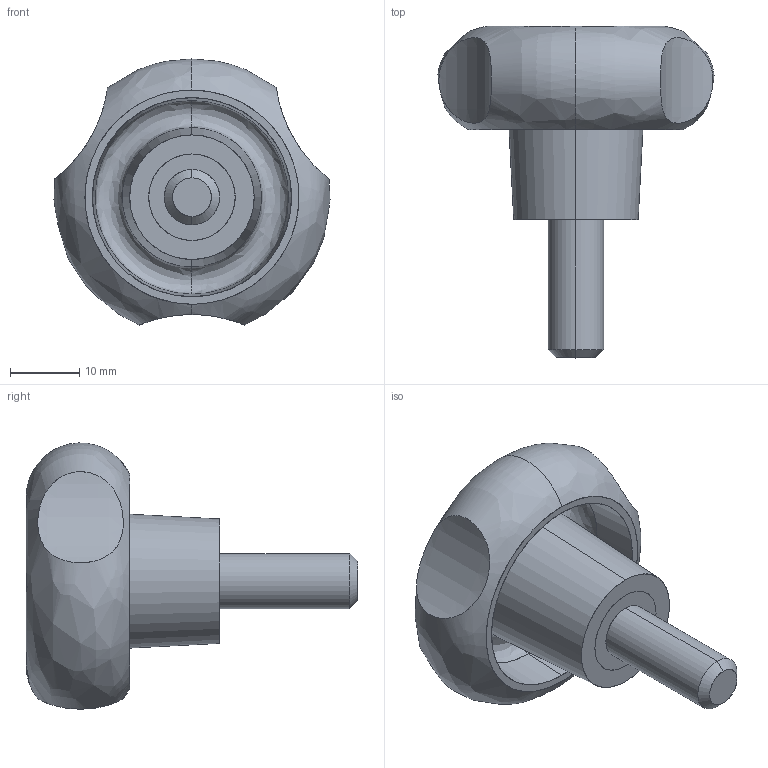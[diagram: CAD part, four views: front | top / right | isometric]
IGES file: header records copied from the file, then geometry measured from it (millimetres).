
Start section: SolidWorks IGES file using analytic representation for surfaces
Global section: file name: C:\Documents and Settings\IanO.IANOHOME\My Documents\Wix and Auto CAD Work\CAD Models\Parametric Models\Wix Models\7059\7059_IGES\Default.igs; native system: SolidWorks 2009; preprocessor: SolidWorks 2009; author: IanO; date: 100907.123613; units: millimetre
Bounding box: 39.92 x 48 x 38.5 mm (x, y, z)
Surface area: 7791.4 mm2 (no closed solid volume)
Topology: 0 solids, 0 shells, 26 faces, 663 edges, 663 vertices
Faces by surface type: revolution 15, bspline 11
